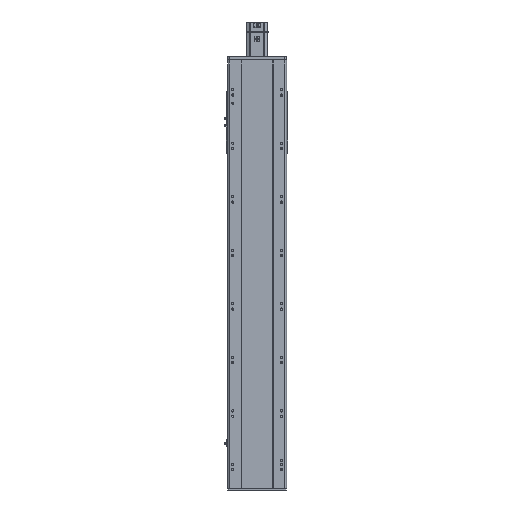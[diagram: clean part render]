
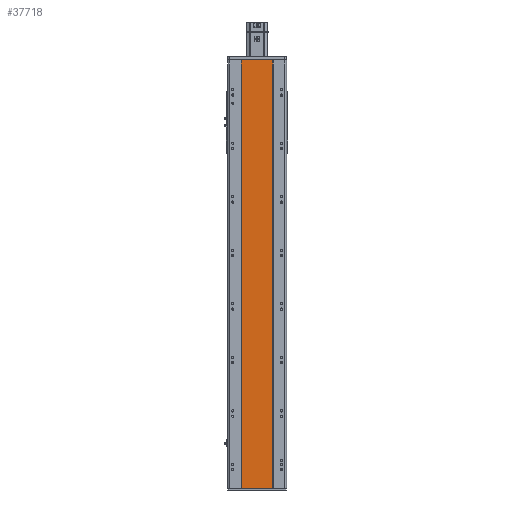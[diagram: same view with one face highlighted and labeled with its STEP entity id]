
A CAD part, front view. The second image highlights one B-rep face of the part: STEP entity #37718.
In plain terms, the highlighted planar face has unit normal (0, -1, 0).
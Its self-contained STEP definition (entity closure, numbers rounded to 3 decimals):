
#916 = ORIENTED_EDGE ( 'NONE', *, *, #5473, .F. ) ;
#1796 = CARTESIAN_POINT ( 'NONE',  ( 59., 1., 800.5 ) ) ;
#3636 = CARTESIAN_POINT ( 'NONE',  ( -59., 1., 800.5 ) ) ;
#5473 = EDGE_CURVE ( 'NONE', #36234, #19234, #34714, .T. ) ;
#5561 = ORIENTED_EDGE ( 'NONE', *, *, #21412, .F. ) ;
#6630 = VERTEX_POINT ( 'NONE', #19085 ) ;
#7296 = CARTESIAN_POINT ( 'NONE',  ( -59., 1., -800.5 ) ) ;
#10119 = DIRECTION ( 'NONE',  ( 1., 0., 0. ) ) ;
#12256 = VECTOR ( 'NONE', #37142, 1000. ) ;
#14861 = CARTESIAN_POINT ( 'NONE',  ( 59., 1., -800.5 ) ) ;
#14887 = CARTESIAN_POINT ( 'NONE',  ( 59., 1., 800.5 ) ) ;
#17146 = VECTOR ( 'NONE', #18872, 1000. ) ;
#18872 = DIRECTION ( 'NONE',  ( 0., 0., -1. ) ) ;
#18885 = ORIENTED_EDGE ( 'NONE', *, *, #27447, .T. ) ;
#19085 = CARTESIAN_POINT ( 'NONE',  ( -59., 1., -800.5 ) ) ;
#19216 = VECTOR ( 'NONE', #10119, 1000. ) ;
#19234 = VERTEX_POINT ( 'NONE', #14861 ) ;
#21301 = EDGE_LOOP ( 'NONE', ( #24030, #916, #5561, #18885 ) ) ;
#21412 = EDGE_CURVE ( 'NONE', #24739, #36234, #21740, .T. ) ;
#21740 = LINE ( 'NONE', #28684, #28863 ) ;
#24030 = ORIENTED_EDGE ( 'NONE', *, *, #31824, .T. ) ;
#24739 = VERTEX_POINT ( 'NONE', #3636 ) ;
#27447 = EDGE_CURVE ( 'NONE', #24739, #6630, #29558, .T. ) ;
#27467 = AXIS2_PLACEMENT_3D ( 'NONE', #37884, #31710, #34782 ) ;
#28684 = CARTESIAN_POINT ( 'NONE',  ( -59., 1., 800.5 ) ) ;
#28863 = VECTOR ( 'NONE', #34788, 1000. ) ;
#29558 = LINE ( 'NONE', #36914, #17146 ) ;
#31710 = DIRECTION ( 'NONE',  ( 0., 1., 0. ) ) ;
#31824 = EDGE_CURVE ( 'NONE', #6630, #19234, #39269, .T. ) ;
#32100 = PLANE ( 'NONE',  #27467 ) ;
#34714 = LINE ( 'NONE', #14887, #12256 ) ;
#34782 = DIRECTION ( 'NONE',  ( -1., 0., 0. ) ) ;
#34788 = DIRECTION ( 'NONE',  ( 1., 0., 0. ) ) ;
#35630 = FACE_OUTER_BOUND ( 'NONE', #21301, .T. ) ;
#36234 = VERTEX_POINT ( 'NONE', #1796 ) ;
#36914 = CARTESIAN_POINT ( 'NONE',  ( -59., 1., 800.5 ) ) ;
#37142 = DIRECTION ( 'NONE',  ( 0., 0., -1. ) ) ;
#37718 = ADVANCED_FACE ( 'NONE', ( #35630 ), #32100, .F. ) ;
#37884 = CARTESIAN_POINT ( 'NONE',  ( -59., 1., 800.5 ) ) ;
#39269 = LINE ( 'NONE', #7296, #19216 ) ;
